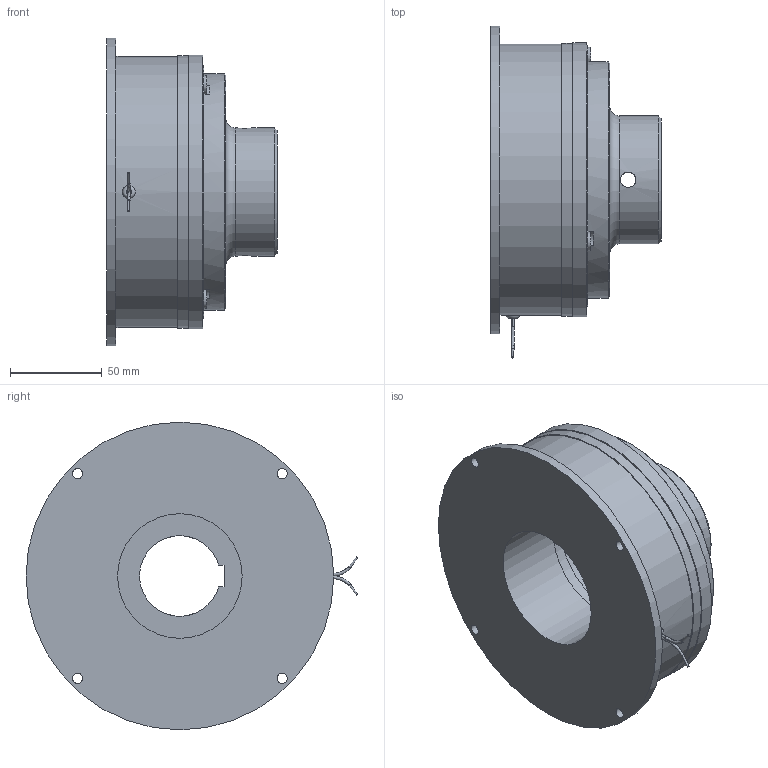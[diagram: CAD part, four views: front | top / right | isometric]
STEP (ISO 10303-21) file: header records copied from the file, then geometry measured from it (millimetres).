
FILE_DESCRIPTION(/* description */ (''),/* implementation_level */ '2;1');
FILE_NAME(/* name */ 'X:\INVENTOR\DISEGNI\08_Freni_Friz_Elettmag_Monodisco\08_28 EMFL_DF\EMFL_DF STEP\08_28_150_12 EMFL150_DF-C-ME@STEP.stp',/* time_stamp */ '2018-09-07T08:34:22+02:00',/* author */ ('stefano'),/* organization */ (''),/* preprocessor_version */ 'ST-DEVELOPER v17',/* originating_system */ 'Autodesk Inventor 2018',/* authorisation */ '');
FILE_SCHEMA (('AUTOMOTIVE_DESIGN { 1 0 10303 214 3 1 1 }'));
Length unit declared in the file: millimetre
Products named in the file (1): 08_28_150_12 EMFL150_DF-C-ME_Substitute_1
Bounding box: 93 x 181.22 x 168 mm (x, y, z)
Volume: 914091.4 mm3; surface area: 157693.3 mm2
Topology: 3 solids, 3 shells, 301 faces, 845 edges, 573 vertices
Faces by surface type: cylinder 176, plane 97, cone 18, torus 8, bspline 2
Full cylindrical faces by diameter (mm): 1.154 x2, 1.5 x1, 5.5 x4, 6 x1, 6.1 x9, 6.647 x3, 7.5 x3, 8 x3, 8.1 x3, 8.376 x2, 10 x9, 11 x3, 13 x3, 68 x2, 70 x1, 74 x1, 95 x1, 129 x1, 132 x1, 148 x1, 149 x1, 149.5 x1, 168 x1
Entity records: 10905 total; most frequent: CARTESIAN_POINT 2114, DIRECTION 1967, ORIENTED_EDGE 1686, AXIS2_PLACEMENT_3D 860, EDGE_CURVE 843, VERTEX_POINT 574, CIRCLE 560, EDGE_LOOP 382
